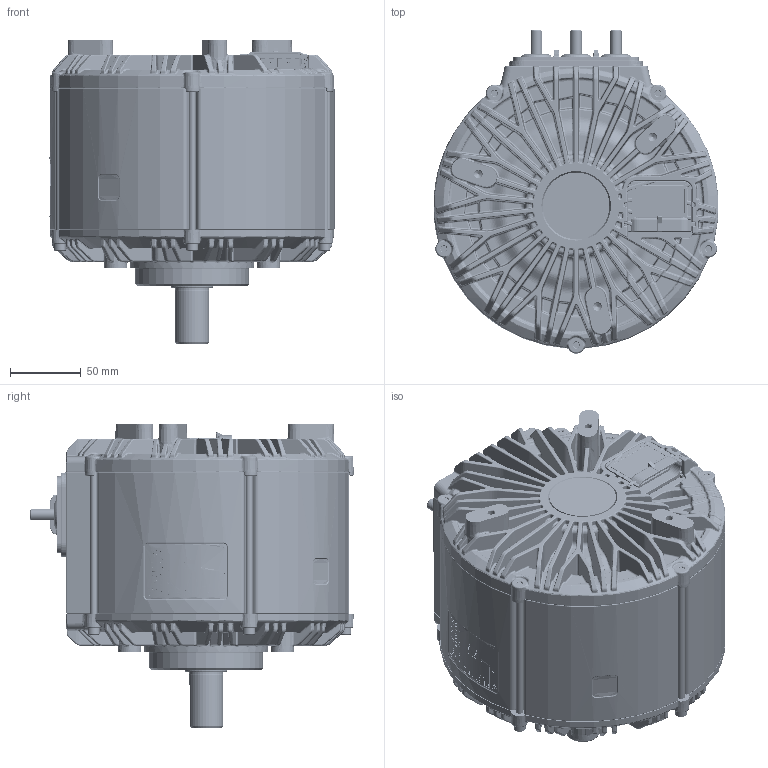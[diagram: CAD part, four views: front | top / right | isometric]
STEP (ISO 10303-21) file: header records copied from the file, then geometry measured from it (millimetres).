
FILE_DESCRIPTION (( 'STEP AP214' ), '1' );
FILE_NAME ('2019-002-051.STEP', '2024-01-11T08:18:20', ( '' ), ( '' ), 'SwSTEP 2.0', 'SolidWorks 2021', '' );
FILE_SCHEMA (( 'AUTOMOTIVE_DESIGN' ));
Length unit declared in the file: millimetre
Products named in the file (56): 910B-005-120; 1400-000-102; 1119-000-101; 921A-107-000_Installed length; 1200-000-102; 1400-000-002; 9200-100-001; 1400-000-101; 1119-000-102; 915A-005-008; 1119-000-003; 9500-110-000; 1319-000-101; 1119-000-002; 9000-101-000; 1319-000-109; 9000-103-000; 1400-000-003; 9500-102-000; 1219-080-006; 9200-102-001; 2019-100-107; 1219-080-010; Copy of SOLID REP^1319-000-108; 1400-000-100; 1119-080-104; 1119-000-103; 1400-000-001_Defeatured (Ext. Only); 1019-080-003_Defeatured (Ext. Only); 9000-101-001; 1219-080-007; 9000-104-000; Copy of SOLID REP^1319-000-109; 1219-080-012_Defeature (ext. only); 1119-000-004; 1219-080-008; 1119-000-100; 1119-000-106; 2019-002-051; 940B-001-101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
Assembly tree (55 placements, depth 8):
  1200-000-102
  9200-100-001
  9000-101-000
  9000-103-000
  1219-080-006
Bounding box: 200.78 x 227.78 x 213.54 mm (x, y, z)
Volume: 1779461.5 mm3; surface area: 584222.4 mm2
Topology: 68 solids, 68 shells, 11707 faces, 27764 edges, 16270 vertices
Faces by surface type: bspline 4578, cylinder 2380, plane 2260, torus 1374, cone 730, sphere 385
Full cylindrical faces by diameter (mm): 3.3 x1, 4 x2, 4.2 x11, 5 x23, 5.5 x11, 6 x6, 6.8 x4, 7.7 x1, 7.8 x1, 8 x9, 8.5 x11, 15.3 x3, 23.6 x1, 24 x2, 24.4 x1, 28 x2, 28.2 x1, 28.4 x1, 29.6 x1, 30 x3, 35 x1, 40 x1, 45 x1, 47 x1, 49.4 x1, 50 x4, 59.75 x4, 62 x2, 68 x1, 68.8 x2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
Entity records: 489465 total; most frequent: CARTESIAN_POINT 260460, ORIENTED_EDGE 52698, DIRECTION 39342, EDGE_CURVE 26349, AXIS2_PLACEMENT_3D 16708, VERTEX_POINT 15680, EDGE_LOOP 11959, FACE_OUTER_BOUND 11496
